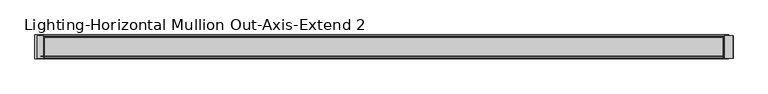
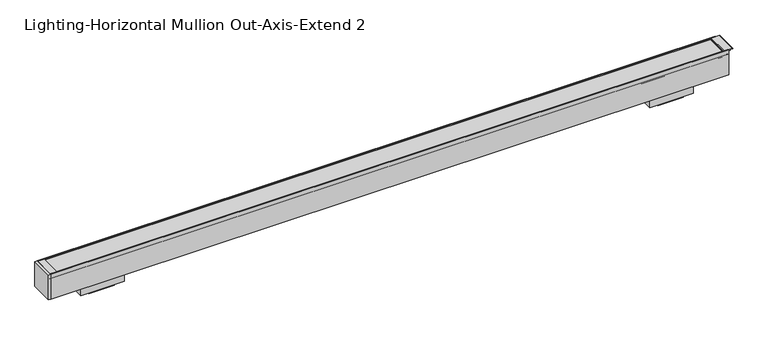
"""IFC4 building model written with IfcOpenShell, lengths in millimetres: light fixture geometry, Lighting-Horizontal Mullion Out-Axis-Extend 2 : EX2WD-900-80-35-SO-4."""

from ifc_helpers import new_model, si_unit, point, frame, frame_2d, origin, place, context, project, spatial, polyline, circle_curve, trimmed, segment, composite_curve, outline, extrude, faceted_brep, source, transform, mapped, element, save


def lighting_horizontal_mullion_out_axis_extend_2_19ae108c(model_context):
    return source(origin(), model_context, "Body", "SolidModel", [
        faceted_brep([(-723.98636, 56.3853553, 31.75), (-723.98636, 7.6226447, 31.75), (-723.98636, 7.6226447, 6.35), (-723.98636, 56.3853553, 6.35), (-842.68564, 56.3853553, 31.75), (-842.68564, 56.3853553, 6.35), (-842.68564, 7.6226447, 6.35), (-842.68564, 7.6226447, 31.75), (-818.4701591, 51.0032, 0.0), (-818.4701591, 51.0032, 6.35), (-748.2018409, 51.0032, 6.35), (-748.2018409, 51.0032, 0.0), (-818.4701591, 13.0048, 0.0), (-748.2018409, 13.0048, 0.0), (-818.4701591, 13.0048, 6.35), (-748.2018409, 13.0048, 6.35)], [[[0, 1, 2, 3]], [[4, 5, 6, 7]], [[8, 9, 10, 11]], [[12, 8, 11, 13]], [[14, 12, 13, 15]], [[1, 0, 4, 7]], [[0, 3, 5, 4]], [[6, 5, 3, 2], [14, 15, 10, 9]], [[6, 2, 1, 7]], [[14, 9, 8, 12]], [[10, 15, 13, 11]]]),
        faceted_brep([(830.50634, 55.2081354, 31.75), (830.50634, 6.4454248, 31.75), (830.50634, 6.4454248, 6.35), (830.50634, 55.2081354, 6.35), (711.80706, 55.2081354, 31.75), (711.80706, 55.2081354, 6.35), (711.80706, 6.4454248, 6.35), (711.80706, 6.4454248, 31.75), (736.0225409, 49.8259801, 0.0), (736.0225409, 49.8259801, 6.35), (806.2908591, 49.8259801, 6.35), (806.2908591, 49.8259801, 0.0), (736.0225409, 11.8275801, 0.0), (806.2908591, 11.8275801, 0.0), (736.0225409, 11.8275801, 6.35), (806.2908591, 11.8275801, 6.35)], [[[0, 1, 2, 3]], [[4, 5, 6, 7]], [[8, 9, 10, 11]], [[12, 8, 11, 13]], [[14, 12, 13, 15]], [[1, 0, 4, 7]], [[0, 3, 5, 4]], [[6, 5, 3, 2], [14, 15, 10, 9]], [[6, 2, 1, 7]], [[14, 9, 8, 12]], [[10, 15, 13, 11]]]),
        extrude(outline(polyline([(102.0857861, -911.0726), (103.1875, -911.9971437), (103.1875, -929.386), (98.6032981, -929.386), (98.6032981, -918.718), (101.4095, -918.718), (101.4095, -911.86635), (100.61575, -911.86635), (100.61575, -911.0726), (102.0857861, -911.0726)])), frame((0.0, 2.032, 0.0), z_axis=(0.0, 1.0, 0.0), x_axis=(0.0, 0.0, 1.0)), (0.0, 0.0, 1.0), 59.944),
        extrude(outline(polyline([(-929.386, 64.008), (-929.386, 0.0), (-935.736, 0.0), (-935.736, 64.008), (-929.386, 64.008)])), frame((0.0, 0.0, 31.75), z_axis=(0.0, 0.0, 1.0), x_axis=(1.0, 0.0, 0.0)), (0.0, 0.0, 1.0), 71.4375),
        extrude(outline(polyline([(102.0857861, 911.4536), (100.61575, 911.4536), (100.61575, 912.24735), (101.4095, 912.24735), (101.4095, 918.718), (98.6032981, 918.718), (98.6032981, 928.3954), (101.4095, 928.3954), (101.4095, 934.86605), (100.61575, 934.86605), (100.61575, 935.6598), (102.0857861, 935.6598), (103.1875, 934.7352563), (103.1875, 912.3781437), (102.0857861, 911.4536)])), frame((0.0, 2.032, 0.0), z_axis=(0.0, 1.0, 0.0), x_axis=(0.0, 0.0, 1.0)), (0.0, 0.0, 1.0), 59.944),
        extrude(outline(composite_curve([segment(polyline([(56.1767262, 98.4762973), (7.8312738, 98.4762973), (7.4925819, 92.0136719)]), True, "CONTINUOUS"), segment(trimmed(circle_curve(frame_2d((4.7498, 89.0147981)), 4.064), [point((7.4925819, 92.0136719))], [point((6.6221186, 85.4077884))], False, "CARTESIAN"), True, "CONTINUOUS"), segment(trimmed(circle_curve(frame_2d((9.854656, 86.1966439)), 3.3274001), [point((6.6221186, 85.4077884))], [point((7.4374044, 83.9100557))], True, "CARTESIAN"), True, "CONTINUOUS"), segment(trimmed(circle_curve(frame_2d((14.8736823, 90.944369)), 10.2362001), [point((7.4374044, 83.9100557))], [point((8.7920934, 82.7106536))], True, "CARTESIAN"), True, "CONTINUOUS"), segment(trimmed(circle_curve(frame_2d((8.3016427, 82.0466443)), 0.8255), [point((8.7920934, 82.7106536))], [point((7.811192, 81.382635))], False, "CARTESIAN"), True, "CONTINUOUS"), segment(trimmed(circle_curve(frame_2d((14.8736831, 90.9443699)), 11.8872013), [point((7.811192, 81.382635))], [point((6.2380048, 82.775489))], False, "CARTESIAN"), True, "CONTINUOUS"), segment(trimmed(circle_curve(frame_2d((9.854656, 86.1966439)), 4.9784001), [point((6.2380048, 82.775489))], [point((4.8931193, 86.6060581))], False, "CARTESIAN"), True, "CONTINUOUS"), segment(trimmed(circle_curve(frame_2d((4.7498, 89.0147981)), 2.413), [point((4.8931193, 86.6060581))], [point((6.5286059, 90.6452639))], True, "CARTESIAN"), True, "CONTINUOUS"), segment(trimmed(circle_curve(frame_2d((8.4010331, 92.3615437)), 2.54), [point((6.5286059, 90.6452639))], [point((5.8645141, 92.4944771))], False, "CARTESIAN"), True, "CONTINUOUS"), segment(polyline([(5.8645141, 92.4944771), (6.178008, 98.4762973), (3.175, 98.4762973), (3.175, 100.3812981), (60.833, 100.3812981), (60.833, 98.4762973), (57.829992, 98.4762973), (58.1434859, 92.4944771)]), True, "CONTINUOUS"), segment(trimmed(circle_curve(frame_2d((55.6069669, 92.3615437)), 2.54), [point((58.1434859, 92.4944771))], [point((57.4793941, 90.6452639))], False, "CARTESIAN"), True, "CONTINUOUS"), segment(trimmed(circle_curve(frame_2d((59.2582, 89.0147981)), 2.413), [point((57.4793941, 90.6452639))], [point((59.1148807, 86.6060581))], True, "CARTESIAN"), True, "CONTINUOUS"), segment(trimmed(circle_curve(frame_2d((54.153344, 86.1966439)), 4.9784001), [point((59.1148807, 86.6060581))], [point((57.7699952, 82.775489))], False, "CARTESIAN"), True, "CONTINUOUS"), segment(trimmed(circle_curve(frame_2d((49.1343169, 90.9443699)), 11.8872013), [point((57.7699952, 82.775489))], [point((56.196808, 81.382635))], False, "CARTESIAN"), True, "CONTINUOUS"), segment(trimmed(circle_curve(frame_2d((55.7063573, 82.0466443)), 0.8255), [point((56.196808, 81.382635))], [point((55.2159066, 82.7106536))], False, "CARTESIAN"), True, "CONTINUOUS"), segment(trimmed(circle_curve(frame_2d((49.1343177, 90.944369)), 10.2362001), [point((55.2159066, 82.7106536))], [point((56.5705956, 83.9100557))], True, "CARTESIAN"), True, "CONTINUOUS"), segment(trimmed(circle_curve(frame_2d((54.153344, 86.1966439)), 3.3274001), [point((56.5705956, 83.9100557))], [point((57.3858814, 85.4077884))], True, "CARTESIAN"), True, "CONTINUOUS"), segment(trimmed(circle_curve(frame_2d((59.2582, 89.0147981)), 4.064), [point((57.3858814, 85.4077884))], [point((56.5154181, 92.0136719))], False, "CARTESIAN"), True, "CONTINUOUS"), segment(polyline([(56.5154181, 92.0136719), (56.1767262, 98.4762973)]), True, "CONTINUOUS")], self_intersect=False)), frame((-920.75, 0.0, 0.0), z_axis=(1.0, 0.0, 0.0), x_axis=(0.0, 1.0, 0.0)), (0.0, 0.0, 1.0), 1828.8),
        extrude(outline(composite_curve([segment(polyline([(61.976, 88.2777), (60.1365797, 88.2777)]), True, "CONTINUOUS"), segment(trimmed(circle_curve(frame_2d((58.6302297, 88.2777)), 1.5063501), [point((60.1365797, 88.2777))], [point((57.8770546, 86.9731626))], False, "CARTESIAN"), True, "CONTINUOUS"), segment(trimmed(circle_curve(frame_2d((59.0682121, 89.0363079)), 2.382315), [point((57.8770546, 86.9731626))], [point((56.6936516, 89.2283682))], False, "CARTESIAN"), True, "CONTINUOUS"), segment(polyline([(56.6936516, 89.2283682), (60.071, 92.0623), (60.071, 90.3097), (61.976, 90.3097), (61.976, 96.8375), (60.071, 96.8375), (60.071, 95.3135), (58.42, 95.4000252), (58.42, 98.1075), (61.976, 98.1075), (61.976, 103.1875), (64.008, 103.1875), (64.008, 31.75), (0.0, 31.75), (0.0, 103.1875), (2.032, 103.1875), (2.032, 98.1075), (5.588, 98.1075), (5.588, 95.4000252), (3.937, 95.3135), (3.937, 96.8375), (2.032, 96.8375), (2.032, 90.3097), (3.937, 90.3097), (3.937, 92.0623), (7.3143484, 89.2283682)]), True, "CONTINUOUS"), segment(trimmed(circle_curve(frame_2d((4.9397879, 89.0363079)), 2.382315), [point((7.3143484, 89.2283682))], [point((6.1309454, 86.9731626))], False, "CARTESIAN"), True, "CONTINUOUS"), segment(trimmed(circle_curve(frame_2d((5.3777703, 88.2777)), 1.5063501), [point((6.1309454, 86.9731626))], [point((3.8714203, 88.2777))], False, "CARTESIAN"), True, "CONTINUOUS"), segment(polyline([(3.8714203, 88.2777), (2.032, 88.2777), (2.032, 33.782), (61.976, 33.782), (61.976, 88.2777)]), True, "CONTINUOUS")], self_intersect=False)), frame((-929.386, 0.0, 0.0), z_axis=(1.0, 0.0, 0.0), x_axis=(0.0, 1.0, 0.0)), (0.0, 0.0, 1.0), 1852.9427),
    ])


if __name__ == "__main__":
    model = new_model("IFC4")
    model_context = context("Model", 3, world=origin())
    ifc_project = project(units=[si_unit("LENGTHUNIT", "METRE", prefix="MILLI")], contexts=[model_context])
    site = spatial("IfcSite", under=ifc_project)
    building = spatial("IfcBuilding", under=site)
    placement = place(None, origin())
    lighting_horizontal_mullion_out_axis_extend_2_shape = lighting_horizontal_mullion_out_axis_extend_2_19ae108c(model_context)
    element("IfcLightFixture", 1, ObjectType="Lighting-Horizontal Mullion Out-Axis-Extend 2 : EX2WD-900-80-35-SO-4", at=placement, inside=building, context=model_context, shape_type="MappedRepresentation", body=[
        mapped(lighting_horizontal_mullion_out_axis_extend_2_shape, transform((0.0, 0.0, 0.0), x_axis=(1.0, 0.0, 0.0), y_axis=(0.0, 1.0, 0.0), z_axis=(0.0, 0.0, 1.0))),
    ])
    save(model, "model.ifc")
